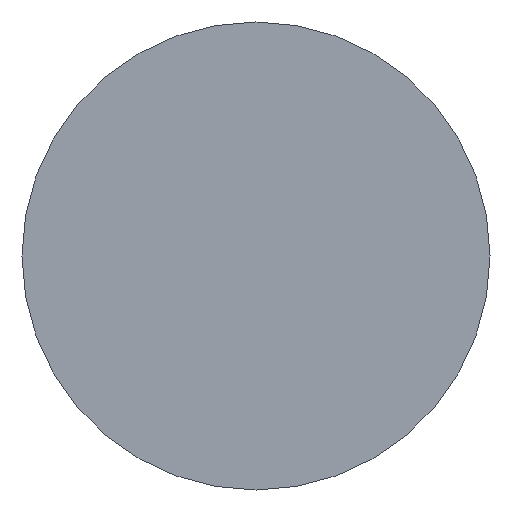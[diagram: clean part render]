
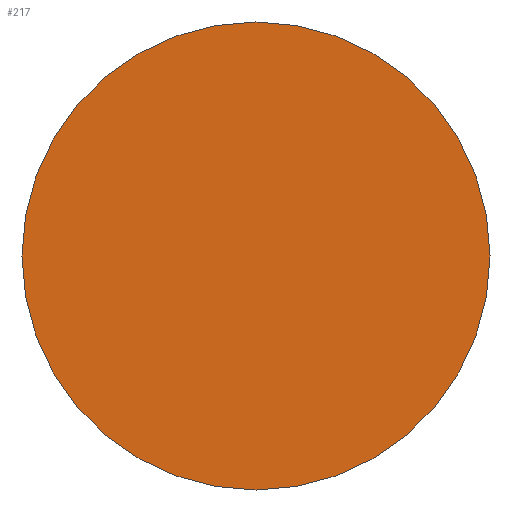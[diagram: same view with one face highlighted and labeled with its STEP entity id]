
A CAD part, left-side view. The second image highlights one B-rep face of the part: STEP entity #217.
In plain terms, the highlighted planar face has unit normal (-1, 0, 0).
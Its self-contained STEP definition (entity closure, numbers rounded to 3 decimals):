
#14 = CARTESIAN_POINT ( 'NONE',  ( 0., 0., 0. ) ) ;
#36 = CARTESIAN_POINT ( 'NONE',  ( 0., 0., 0. ) ) ;
#39 = DIRECTION ( 'NONE',  ( -1., 0., 0. ) ) ;
#50 = EDGE_CURVE ( 'NONE', #74, #115, #235, .T. ) ;
#68 = CARTESIAN_POINT ( 'NONE',  ( 0., 0., 0. ) ) ;
#70 = EDGE_LOOP ( 'NONE', ( #93, #159 ) ) ;
#74 = VERTEX_POINT ( 'NONE', #81 ) ;
#81 = CARTESIAN_POINT ( 'NONE',  ( 0., -11., 0. ) ) ;
#82 = PLANE ( 'NONE',  #170 ) ;
#93 = ORIENTED_EDGE ( 'NONE', *, *, #97, .F. ) ;
#97 = EDGE_CURVE ( 'NONE', #115, #74, #195, .T. ) ;
#115 = VERTEX_POINT ( 'NONE', #120 ) ;
#120 = CARTESIAN_POINT ( 'NONE',  ( 0., 11., 0. ) ) ;
#136 = AXIS2_PLACEMENT_3D ( 'NONE', #68, #231, #238 ) ;
#153 = AXIS2_PLACEMENT_3D ( 'NONE', #36, #184, #189 ) ;
#159 = ORIENTED_EDGE ( 'NONE', *, *, #50, .F. ) ;
#170 = AXIS2_PLACEMENT_3D ( 'NONE', #14, #39, #203 ) ;
#184 = DIRECTION ( 'NONE',  ( 1., 0., 0. ) ) ;
#189 = DIRECTION ( 'NONE',  ( 0., 1., 0. ) ) ;
#195 = CIRCLE ( 'NONE', #136, 11. ) ;
#203 = DIRECTION ( 'NONE',  ( 0., -1., 0. ) ) ;
#217 = ADVANCED_FACE ( 'NONE', ( #255 ), #82, .T. ) ;
#231 = DIRECTION ( 'NONE',  ( 1., 0., 0. ) ) ;
#235 = CIRCLE ( 'NONE', #153, 11. ) ;
#238 = DIRECTION ( 'NONE',  ( 0., 1., 0. ) ) ;
#255 = FACE_OUTER_BOUND ( 'NONE', #70, .T. ) ;
